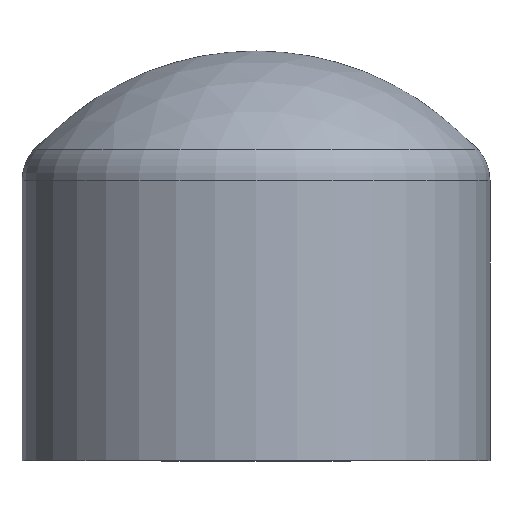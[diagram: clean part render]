
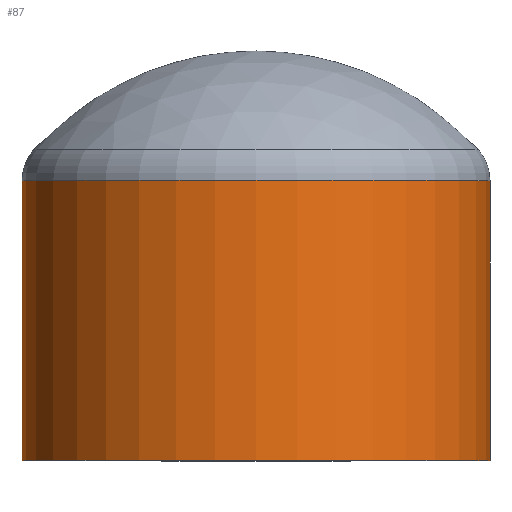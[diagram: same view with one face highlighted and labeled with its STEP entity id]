
A CAD part, top view. The second image highlights one B-rep face of the part: STEP entity #87.
In plain terms, the highlighted cylindrical face has radius 20.5 mm (diameter 41 mm), a full revolution.
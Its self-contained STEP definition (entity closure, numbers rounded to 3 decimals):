
#20=CYLINDRICAL_SURFACE('',#98,20.5);
#23=FACE_BOUND('',#37,.T.);
#28=FACE_OUTER_BOUND('',#36,.T.);
#36=EDGE_LOOP('',(#71));
#37=EDGE_LOOP('',(#72));
#46=CIRCLE('',#96,20.5);
#48=CIRCLE('',#99,20.5);
#53=VERTEX_POINT('',#138);
#55=VERTEX_POINT('',#143);
#61=EDGE_CURVE('',#53,#53,#46,.T.);
#63=EDGE_CURVE('',#55,#55,#48,.T.);
#71=ORIENTED_EDGE('',*,*,#63,.T.);
#72=ORIENTED_EDGE('',*,*,#61,.F.);
#87=ADVANCED_FACE('',(#28,#23),#20,.T.);
#96=AXIS2_PLACEMENT_3D('',#139,#112,#113);
#98=AXIS2_PLACEMENT_3D('',#142,#116,#117);
#99=AXIS2_PLACEMENT_3D('',#144,#118,#119);
#112=DIRECTION('center_axis',(0.,1.,0.));
#113=DIRECTION('ref_axis',(1.,0.,0.));
#116=DIRECTION('center_axis',(0.,1.,0.));
#117=DIRECTION('ref_axis',(-1.,0.,0.));
#118=DIRECTION('center_axis',(0.,1.,0.));
#119=DIRECTION('ref_axis',(1.,0.,0.));
#138=CARTESIAN_POINT('',(-20.5,24.52,0.));
#139=CARTESIAN_POINT('Origin',(0.,24.52,0.));
#142=CARTESIAN_POINT('Origin',(0.,13.,0.));
#143=CARTESIAN_POINT('',(-20.5,0.,0.));
#144=CARTESIAN_POINT('Origin',(0.,0.,0.));
